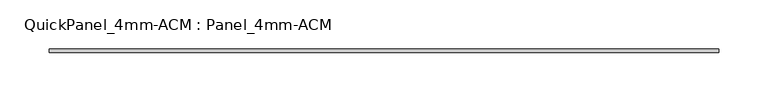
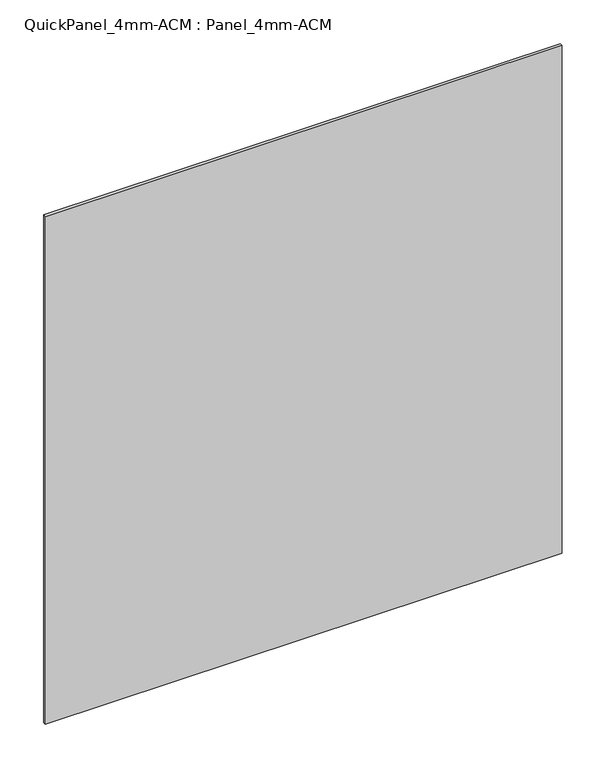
"""IFC4 building model written with IfcOpenShell, lengths in millimetres: plate geometry, QuickPanel_4mm-ACM : Panel_4mm-ACM."""

from ifc_helpers import new_model, si_unit, origin, origin_with_axes, place, context, project, spatial, polyline, outline, extrude, source, transform, mapped, element, save


def quickpanel_4mm_acm_panel_4mm_acm_029b9e35(model_context):
    return source(origin(), model_context, "Body", "SweptSolid", [
        extrude(outline(polyline([(-341.1618133, -6.096), (341.1618133, -6.096), (341.1618133, -9.906), (-341.1618133, -9.906), (-341.1618133, -6.096)])), origin_with_axes(), (0.0, 0.0, 1.0), 708.4249834),
    ])


if __name__ == "__main__":
    model = new_model("IFC4")
    model_context = context("Model", 3, world=origin())
    ifc_project = project(units=[si_unit("LENGTHUNIT", "METRE", prefix="MILLI")], contexts=[model_context])
    site = spatial("IfcSite", under=ifc_project)
    building = spatial("IfcBuilding", under=site)
    placement = place(None, origin())
    quickpanel_4mm_acm_panel_4mm_acm_shape = quickpanel_4mm_acm_panel_4mm_acm_029b9e35(model_context)
    element("IfcPlate", 1, ObjectType="QuickPanel_4mm-ACM : Panel_4mm-ACM", at=placement, inside=building, context=model_context, shape_type="MappedRepresentation", body=[
        mapped(quickpanel_4mm_acm_panel_4mm_acm_shape, transform((0.0, 0.0, 0.0), x_axis=(1.0, 0.0, 0.0), y_axis=(0.0, 1.0, 0.0), z_axis=(0.0, 0.0, 1.0))),
    ])
    save(model, "model.ifc")
